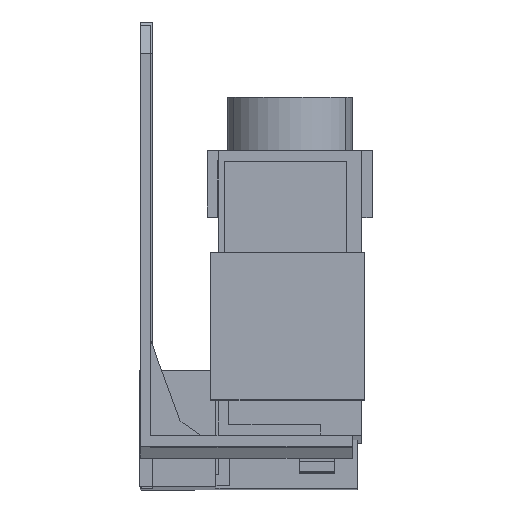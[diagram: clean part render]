
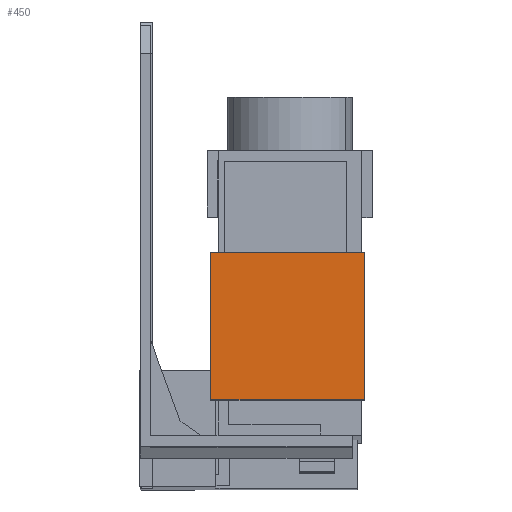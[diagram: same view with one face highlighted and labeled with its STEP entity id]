
A CAD part, front view. The second image highlights one B-rep face of the part: STEP entity #450.
In plain terms, the highlighted planar face has unit normal (0, -1, 0.003).
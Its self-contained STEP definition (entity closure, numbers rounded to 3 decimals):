
#450 = ADVANCED_FACE ( 'NONE', ( #2616 ), #6486, .T. ) ;
#740 = AXIS2_PLACEMENT_3D ( 'NONE', #6489, #6518, #6519 ) ;
#1057 = EDGE_CURVE ( 'NONE', #7617, #7613, #3061, .T. ) ;
#1325 = ORIENTED_EDGE ( 'NONE', *, *, #4527, .F. ) ;
#1326 = ORIENTED_EDGE ( 'NONE', *, *, #1057, .F. ) ;
#1327 = ORIENTED_EDGE ( 'NONE', *, *, #4287, .T. ) ;
#1328 = ORIENTED_EDGE ( 'NONE', *, *, #4532, .F. ) ;
#2176 = EDGE_LOOP ( 'NONE', ( #1325, #1326, #1327, #1328 ) ) ;
#2616 = FACE_OUTER_BOUND ( 'NONE', #2176, .T. ) ;
#3061 = LINE ( 'NONE', #4088, #3062 ) ;
#3062 = VECTOR ( 'NONE', #4096, 1000. ) ;
#3220 = LINE ( 'NONE', #4209, #3222 ) ;
#3222 = VECTOR ( 'NONE', #4181, 1000. ) ;
#3627 = LINE ( 'NONE', #4996, #3635 ) ;
#3635 = VECTOR ( 'NONE', #4997, 1000. ) ;
#3667 = LINE ( 'NONE', #5006, #3668 ) ;
#3668 = VECTOR ( 'NONE', #5007, 1000. ) ;
#4088 = CARTESIAN_POINT ( 'NONE',  ( 10.05, -31.509, -40.315 ) ) ;
#4096 = DIRECTION ( 'NONE',  ( 0., 0.003, 1. ) ) ;
#4181 = DIRECTION ( 'NONE',  ( 1., 0., 0. ) ) ;
#4209 = CARTESIAN_POINT ( 'NONE',  ( 9.3, -31.509, -40.315 ) ) ;
#4287 = EDGE_CURVE ( 'NONE', #7617, #7618, #3220, .T. ) ;
#4527 = EDGE_CURVE ( 'NONE', #7613, #7614, #3627, .T. ) ;
#4532 = EDGE_CURVE ( 'NONE', #7614, #7618, #3667, .T. ) ;
#4996 = CARTESIAN_POINT ( 'NONE',  ( 9.3, -31.452, -19.316 ) ) ;
#4997 = DIRECTION ( 'NONE',  ( 1., 0., 0. ) ) ;
#5006 = CARTESIAN_POINT ( 'NONE',  ( 31.95, -31.452, -19.316 ) ) ;
#5007 = DIRECTION ( 'NONE',  ( 0., -0.003, -1. ) ) ;
#5864 = CARTESIAN_POINT ( 'NONE',  ( 10.05, -31.452, -19.316 ) ) ;
#5865 = CARTESIAN_POINT ( 'NONE',  ( 31.95, -31.452, -19.316 ) ) ;
#5868 = CARTESIAN_POINT ( 'NONE',  ( 10.05, -31.509, -40.315 ) ) ;
#5869 = CARTESIAN_POINT ( 'NONE',  ( 31.95, -31.509, -40.315 ) ) ;
#6486 = PLANE ( 'NONE',  #740 ) ;
#6489 = CARTESIAN_POINT ( 'NONE',  ( 9.3, -31.509, -40.315 ) ) ;
#6518 = DIRECTION ( 'NONE',  ( 0., -1., 0.003 ) ) ;
#6519 = DIRECTION ( 'NONE',  ( -1., 0., 0. ) ) ;
#7613 = VERTEX_POINT ( 'NONE', #5864 ) ;
#7614 = VERTEX_POINT ( 'NONE', #5865 ) ;
#7617 = VERTEX_POINT ( 'NONE', #5868 ) ;
#7618 = VERTEX_POINT ( 'NONE', #5869 ) ;
